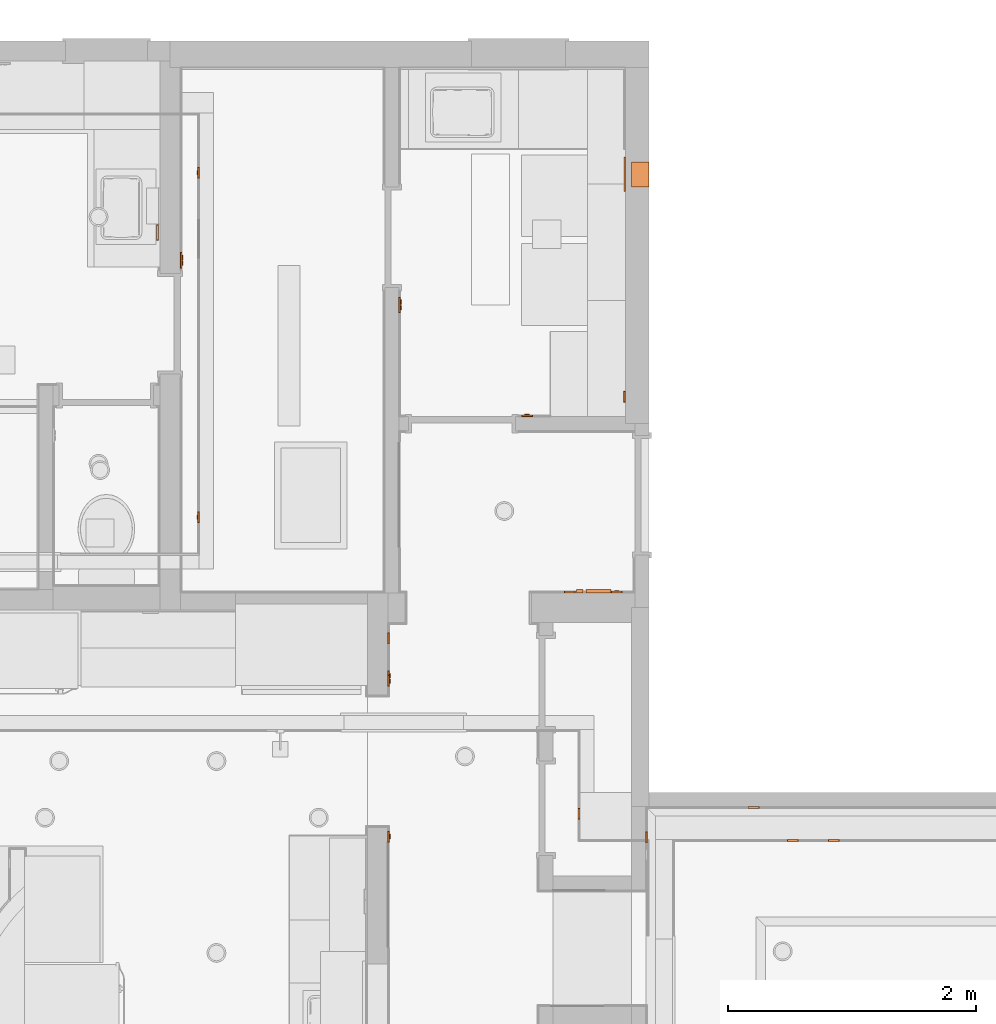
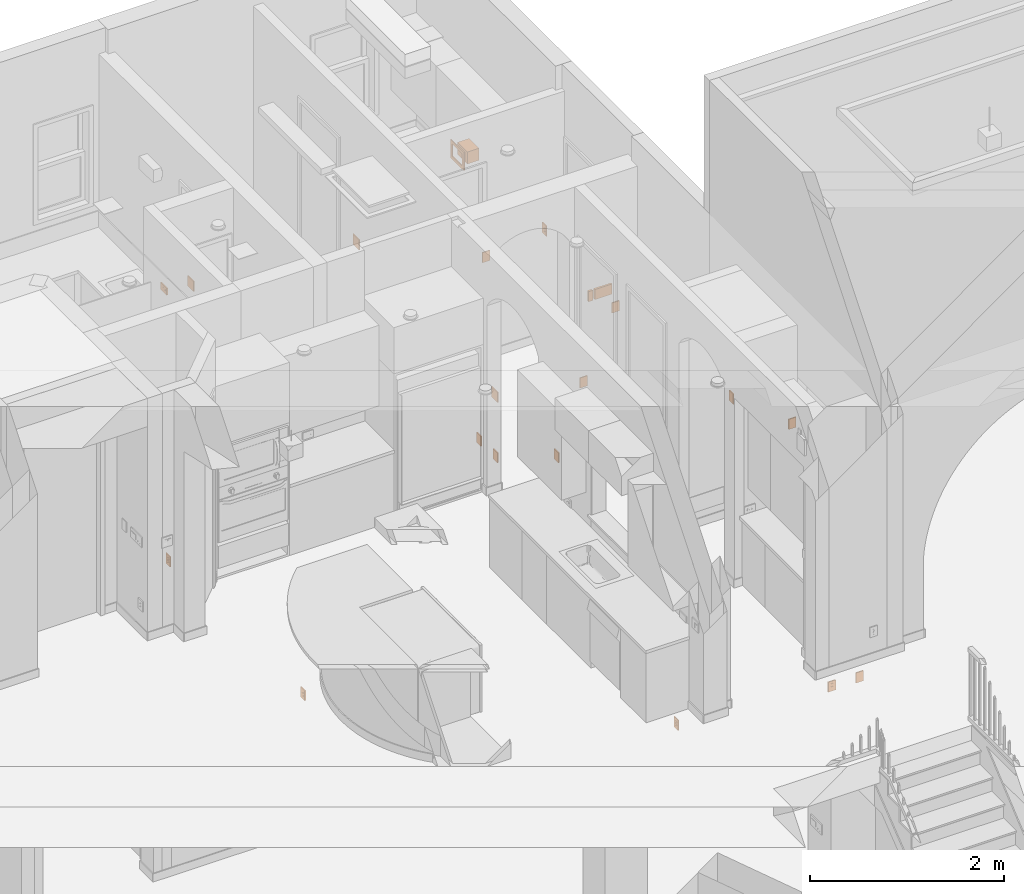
# One storey, part 55 of 60: 21 proxies.
"""IFC2X3 building model written with IfcOpenShell, lengths in feet."""

from ifc_helpers import new_model, entity, si_unit, converted_unit, direction, frame, frame_2d, origin, origin_2d_with_axis, place, context, subcontext, project, spatial, polyline, circle_curve, parameter, trimmed, segment, composite_curve, rectangle, outline, extrude, source, transform, mapped, material, type_object, type_shapes, element, save


model = new_model("IFC2X3")

# Units and contexts
model_context = context("Model", 3, precision=0.0001, world=origin(), true_north=direction((6.123031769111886e-17, 1.0)))
plan_context = context("Plan", 3, precision=0.0001, world=origin(), true_north=direction((6.123031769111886e-17, 1.0)))
body_context = subcontext(model_context, "Body", "Model", "MODEL_VIEW")
ifc_project = project(units=[converted_unit("LENGTHUNIT", "FOOT", entity("IfcLengthMeasure", 0.3048), si_unit("LENGTHUNIT", "METRE"), dimensions=[1, 0, 0, 0, 0, 0, 0]), converted_unit("AREAUNIT", "SQUARE FOOT", entity("IfcAreaMeasure", 0.09290304), si_unit("AREAUNIT", "SQUARE_METRE"), dimensions=[2, 0, 0, 0, 0, 0, 0]), converted_unit("PLANEANGLEUNIT", "DEGREE", entity("IfcPlaneAngleMeasure", 0.017453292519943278), si_unit("PLANEANGLEUNIT", "RADIAN"), dimensions=[0, 0, 0, 0, 0, 0, 0])], contexts=[model_context, plan_context])

# Site, building, storey
site_placement = place(None, origin())
site = spatial("IfcSite", under=ifc_project, at=site_placement, Name="Default", CompositionType="ELEMENT")
building_placement = place(site_placement, origin())
building = spatial("IfcBuilding", under=site, at=building_placement, CompositionType="ELEMENT")
storey_placement = place(building_placement, origin())
storey = spatial("IfcBuildingStorey", under=building, at=storey_placement, Name="First floor", CompositionType="ELEMENT", Elevation=0.0)

# Proxies
ifc_material = material(Name="Default New Material")
building_element_proxy_type_1 = type_object("IfcBuildingElementProxyType", Name="Wall void 1 :Wall void 1", PredefinedType="NOTDEFINED", material=ifc_material)
shared_shape_1 = source(origin(), body_context, "Body", "SweptSolid", [
    extrude(outline(polyline([(-0.4583333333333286, -0.375), (0.4583333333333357, -0.375), (0.4583333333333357, 0.375), (-0.4583333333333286, 0.375), (-0.4583333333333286, -0.375)]), holes=[polyline([(-0.3333333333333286, 0.25), (0.3333333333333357, 0.25), (0.3333333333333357, -0.25), (-0.3333333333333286, -0.25), (-0.3333333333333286, 0.25)])]), frame((19.708333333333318, 44.49965483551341, 0.25), z_axis=(1.0, 0.0, 0.0), x_axis=(0.0, -1.0, 0.0)), (0.0, 0.0, 1.0), 0.04166666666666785),
    extrude(rectangle(XDim=0.45833333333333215, YDim=0.6666666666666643, at=frame_2d((-1.7763568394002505e-15, -3.552713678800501e-15), x_axis=(1.0, 0.0))), frame((20.14583333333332, 44.49965483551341, 0.0)), (0.0, 0.0, 1.0), 0.5),
])
type_shapes(building_element_proxy_type_1, [shared_shape_1])
proxy_1_placement = place(storey_placement, frame((0.0, 0.0, 13.750000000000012)))
element("IfcBuildingElementProxy", 1, at=proxy_1_placement, inside=storey, type_object=building_element_proxy_type_1, material=ifc_material, Name="Wall void 1 :Wall void 1", ObjectType="Wall void 1 :Wall void 1", context=body_context, shape_type="MappedRepresentation", body=[
    mapped(shared_shape_1, transform((0.0, 0.0, 0.0), scale=1.0)),
])
building_element_proxy_type_2 = type_object("IfcBuildingElementProxyType", Name="switch 4:switch 4", PredefinedType="NOTDEFINED", material=ifc_material)
shared_shape_2 = source(origin(), body_context, "Body", "SweptSolid", [
    extrude(outline(composite_curve([segment(polyline([(-0.030916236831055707, -0.046587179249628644), (0.030916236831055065, -0.046587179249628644)]), True, "CONTINUOUS"), segment(trimmed(circle_curve(frame_2d((-0.00026496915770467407, 0.0), x_axis=(-1.0, 0.0)), 0.056059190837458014), [parameter(123.79474084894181)], [parameter(236.20525915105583)], True, "PARAMETER"), True, "CONTINUOUS"), segment(polyline([(0.030916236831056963, 0.04658717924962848), (-0.030916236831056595, 0.04658717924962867)]), True, "CONTINUOUS"), segment(trimmed(circle_curve(frame_2d((0.00026496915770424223, 0.0), x_axis=(-1.0, 0.0)), 0.056059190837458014), [parameter(303.79474084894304)], [parameter(56.2052591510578)], True, "PARAMETER"), True, "CONTINUOUS")], self_intersect=False), holes=[polyline([(0.01416238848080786, 0.027928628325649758), (0.026173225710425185, 0.02792862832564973), (0.026173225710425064, -0.006935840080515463), (0.01416238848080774, -0.006935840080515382), (0.01416238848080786, 0.027928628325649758)]), polyline([(-0.015270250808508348, 0.025046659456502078), (-0.015270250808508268, -0.004483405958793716), (-0.0278178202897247, -0.0044834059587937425), (-0.027817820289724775, 0.025046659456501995), (-0.015270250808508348, 0.025046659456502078)]), composite_curve([segment(polyline([(-0.01203154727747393, -0.041319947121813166), (-0.01203154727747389, -0.030018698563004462)]), True, "CONTINUOUS"), segment(trimmed(circle_curve(frame_2d((-0.00028489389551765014, -0.03001869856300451), x_axis=(-1.0, 0.0)), 0.011746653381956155), [parameter(180.00000000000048)], [parameter(3.5622212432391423e-13)], True, "PARAMETER"), False, "CONTINUOUS"), segment(polyline([(0.011461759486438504, -0.030018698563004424), (0.01146175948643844, -0.04131994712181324)]), True, "CONTINUOUS"), segment(polyline([(0.01146175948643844, -0.04131994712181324), (-0.01203154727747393, -0.041319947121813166)]), True, "CONTINUOUS")], self_intersect=False)]), frame((-0.0011190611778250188, 0.2703726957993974, 0.041666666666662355)), (0.0, 0.0, 1.0), 0.004209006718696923),
    extrude(outline(composite_curve([segment(polyline([(-0.030763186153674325, -0.04635654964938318), (0.030763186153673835, -0.04635654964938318)]), True, "CONTINUOUS"), segment(trimmed(circle_curve(frame_2d((-0.00026365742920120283, 0.0), x_axis=(-1.0, 0.0)), 0.05578167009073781), [parameter(123.79474084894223)], [parameter(236.20525915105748)], True, "PARAMETER"), True, "CONTINUOUS"), segment(polyline([(0.030763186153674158, 0.04635654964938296), (-0.030763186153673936, 0.04635654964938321)]), True, "CONTINUOUS"), segment(trimmed(circle_curve(frame_2d((0.0002636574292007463, 0.0), x_axis=(-1.0, 0.0)), 0.05578167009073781), [parameter(303.7947408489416)], [parameter(56.205259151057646)], True, "PARAMETER"), True, "CONTINUOUS")], self_intersect=False), holes=[polyline([(0.014092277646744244, 0.024722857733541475), (0.02604365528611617, 0.024722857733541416), (0.026043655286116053, -0.004727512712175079), (0.014092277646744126, -0.004727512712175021), (0.014092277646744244, 0.024722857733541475)]), polyline([(-0.01519465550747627, 0.024922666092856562), (-0.015194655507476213, -0.004461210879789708), (-0.027680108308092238, -0.00446121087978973), (-0.027680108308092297, 0.02492266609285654), (-0.01519465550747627, 0.024922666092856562)]), composite_curve([segment(polyline([(-0.011971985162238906, -0.04111539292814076), (-0.011971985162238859, -0.029870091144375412)]), True, "CONTINUOUS"), segment(trimmed(circle_curve(frame_2d((-0.00028348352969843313, -0.029870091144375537), x_axis=(-1.0, 0.0)), 0.011688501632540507), [parameter(179.9999999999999)], [parameter(0.0)], True, "PARAMETER"), False, "CONTINUOUS"), segment(polyline([(0.011405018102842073, -0.029870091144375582), (0.011405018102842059, -0.04111539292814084)]), True, "CONTINUOUS"), segment(polyline([(0.011405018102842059, -0.04111539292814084), (-0.011971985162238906, -0.04111539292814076)]), True, "CONTINUOUS")], self_intersect=False)]), frame((-0.0011190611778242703, 0.14560208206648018, 0.041666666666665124)), (0.0, 0.0, 1.0), 0.004209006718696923),
    extrude(rectangle(XDim=0.41666666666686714, YDim=0.2916666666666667, at=origin_2d_with_axis()), frame((0.0, 0.2083333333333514, 0.0), z_axis=(0.0, 0.0, 1.0), x_axis=(0.0, -1.0, 0.0)), (0.0, 0.0, 1.0), 0.041666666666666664),
])
type_shapes(building_element_proxy_type_2, [shared_shape_2])
for number, where, z_axis, x_axis, name in (
    (2, (13.458333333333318, 31.082988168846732, 11.66666666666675), (1.0, 0.0, 0.0), (0.0, 1.0, 0.0), "switch 4:switch 4"),
    (3, (18.270833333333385, 33.41632150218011, 11.625002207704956), (0.0, 1.0, 0.0), (-1.0, 0.0, 0.0), "switch 4:switch 4"),
    (4, (19.749999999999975, 38.60382150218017, 14.291668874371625), (-1.0, 0.0, 0.0), (0.0, -1.0, 0.0), "switch 4:switch 4"),
    (5, (24.18749999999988, 26.875, 0.9583355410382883), (0.0, -1.0, 0.0), (1.0, 0.0, 0.0), "switch 4:switch 4"),
    (6, (18.54166666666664, 27.56250000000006, 0.9583355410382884), (-1.0, 0.0, 0.0), (0.0, -1.0, 0.0), "switch 4:switch 4"),
    (7, (8.458333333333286, 35.41666666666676, 0.9583333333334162), (-1.0, 0.0, 0.0), (0.0, -1.0, 0.0), "switch 4:switch 4"),
    (8, (8.458333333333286, 44.54166666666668, 0.9583333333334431), (-1.0, 0.0, 0.0), (0.0, -1.0, 0.0), "switch 4:switch 4"),
):
    element("IfcBuildingElementProxy", number, at=place(storey_placement, frame(where, z_axis=z_axis, x_axis=x_axis)), inside=storey, type_object=building_element_proxy_type_2, material=ifc_material, Name=name, ObjectType="switch 4:switch 4", context=body_context, shape_type="MappedRepresentation", body=[
        mapped(shared_shape_2, transform((0.0, 0.0, 0.0), scale=1.0)),
    ])
building_element_proxy_type_3 = type_object("IfcBuildingElementProxyType", Name="switch 1:switch 1", PredefinedType="NOTDEFINED", material=ifc_material)
shared_shape_3 = source(origin(), body_context, "Body", "SweptSolid", [
    extrude(rectangle(XDim=0.29166666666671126, YDim=0.41666666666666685, at=frame_2d((0.0, 2.7755575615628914e-17), x_axis=(1.0, 0.0))), frame((0.0, 0.20833333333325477, 0.0)), (0.0, 0.0, 1.0), 0.041666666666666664),
])
type_shapes(building_element_proxy_type_3, [shared_shape_3])
for number, where, z_axis, x_axis, name in (
    (9, (23.145833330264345, 27.75000000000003, 11.666666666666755), (0.0, -1.0, 0.0), (1.0, 0.0, 0.0), "switch 1:switch 1"),
    (10, (20.29166666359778, 26.937500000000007, 14.208333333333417), (1.0, 0.0, 0.0), (0.0, 1.0, 0.0), "switch 1:switch 1"),
    (11, (13.45833333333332, 32.207988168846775, 11.66666666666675), (1.0, 0.0, 0.0), (0.0, 1.0, 0.0), "switch 1:switch 1"),
    (12, (25.270833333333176, 26.875, 0.9583333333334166), (0.0, -1.0, 0.0), (1.0, 0.0, 0.0), "switch 1:switch 1"),
):
    element("IfcBuildingElementProxy", number, at=place(storey_placement, frame(where, z_axis=z_axis, x_axis=x_axis)), inside=storey, type_object=building_element_proxy_type_3, material=ifc_material, Name=name, ObjectType="switch 1:switch 1", context=body_context, shape_type="MappedRepresentation", body=[
        mapped(shared_shape_3, transform((0.0, 0.0, 0.0), scale=1.0)),
    ])
building_element_proxy_type_4 = type_object("IfcBuildingElementProxyType", Name="switch 6:switch 6", PredefinedType="NOTDEFINED", material=ifc_material)
shared_shape_4 = source(origin(), body_context, "Body", "SweptSolid", [
    extrude(outline(polyline([(-0.025444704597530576, -0.10104762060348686), (-0.007049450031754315, -0.10104762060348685), (-0.005760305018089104, -0.027097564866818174), (0.02168554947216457, 0.1140991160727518), (0.0165689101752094, 0.11509369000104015), (-0.025444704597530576, -0.10104762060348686)])), frame((0.015553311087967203, 0.21435624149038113, 0.047363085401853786), z_axis=(1.0, 0.0, 0.0), x_axis=(0.0, -0.19080899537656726, 0.9816271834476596)), (0.0, 0.0, 1.0), 0.11722231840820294),
    extrude(outline(polyline([(-0.10560931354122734, -0.005954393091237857), (0.11457744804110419, -0.005954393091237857), (0.11457744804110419, -0.0007419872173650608), (-0.02169697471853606, -0.0007419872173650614), (-0.10184860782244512, 0.013392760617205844), (-0.10560931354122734, -0.005954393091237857)])), frame((-0.1301384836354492, 0.20531775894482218, 0.047621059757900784), z_axis=(1.0, 0.0, 0.0), x_axis=(0.0, 1.0, 0.0)), (0.0, 0.0, 1.0), 0.11504888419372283),
    extrude(rectangle(XDim=0.41666666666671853, YDim=0.41666666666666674, at=origin_2d_with_axis()), frame((0.0, 0.20833333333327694, 0.0), z_axis=(0.0, 0.0, 1.0), x_axis=(0.0, -1.0, 0.0)), (0.0, 0.0, 1.0), 0.041666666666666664),
])
type_shapes(building_element_proxy_type_4, [shared_shape_4])
for number, where, z_axis, x_axis, name in (
    (13, (13.458333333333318, 31.14548816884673, 14.16666666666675), (1.0, 0.0, 0.0), (0.0, 1.0, 0.0), "switch 6:switch 6"),
    (14, (13.749999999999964, 41.04132150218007, 14.375000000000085), (1.0, 0.0, 0.0), (0.0, 1.0, 0.0), "switch 6:switch 6"),
    (15, (7.958333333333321, 42.22882150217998, 13.958333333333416), (1.0, 0.0, 0.0), (0.0, 1.0, 0.0), "switch 6:switch 6"),
):
    element("IfcBuildingElementProxy", number, at=place(storey_placement, frame(where, z_axis=z_axis, x_axis=x_axis)), inside=storey, type_object=building_element_proxy_type_4, material=ifc_material, Name=name, ObjectType="switch 6:switch 6", context=body_context, shape_type="MappedRepresentation", body=[
        mapped(shared_shape_4, transform((0.0, 0.0, 0.0), scale=1.0)),
    ])
building_element_proxy_type_5 = type_object("IfcBuildingElementProxyType", Name="switch 3:switch 3", PredefinedType="NOTDEFINED", material=ifc_material)
shared_shape_5 = source(origin(), body_context, "Body", "SweptSolid", [
    extrude(outline(polyline([(-0.10405409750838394, -0.0058649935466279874), (0.11210607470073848, -0.0058649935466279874), (0.11210607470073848, -0.0006525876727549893), (-0.02127056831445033, -0.0006525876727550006), (-0.09888748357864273, 0.013035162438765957), (-0.10405409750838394, -0.0058649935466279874)])), frame((-0.058349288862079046, 0.2099944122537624, 0.047531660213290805), z_axis=(1.0, 0.0, 0.0), x_axis=(0.0, 1.0, 0.0)), (0.0, 0.0, 1.0), 0.11669857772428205),
    extrude(rectangle(XDim=0.41666666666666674, YDim=0.2916666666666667, at=origin_2d_with_axis()), frame((0.0, 0.20833333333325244, 0.0), z_axis=(0.0, 0.0, 1.0), x_axis=(0.0, -1.0, 0.0)), (0.0, 0.0, 1.0), 0.041666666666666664),
])
type_shapes(building_element_proxy_type_5, [shared_shape_5])
for number, where, z_axis, x_axis, name in (
    (16, (13.45833333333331, 26.957988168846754, 14.166666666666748), (1.0, 0.0, 0.0), (0.0, 1.0, 0.0), "switch 3:switch 3"),
    (17, (19.5208333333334, 33.416321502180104, 14.29166666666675), (0.0, 1.0, 0.0), (-1.0, 0.0, 0.0), "switch 3:switch 3"),
    (18, (17.145833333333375, 38.08298816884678, 14.375000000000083), (0.0, 1.0, 0.0), (-1.0, 0.0, 0.0), "switch 3:switch 3"),
):
    element("IfcBuildingElementProxy", number, at=place(storey_placement, frame(where, z_axis=z_axis, x_axis=x_axis)), inside=storey, type_object=building_element_proxy_type_5, material=ifc_material, Name=name, ObjectType="switch 3:switch 3", context=body_context, shape_type="MappedRepresentation", body=[
        mapped(shared_shape_5, transform((0.0, 0.0, 0.0), scale=1.0)),
    ])
building_element_proxy_type_6 = type_object("IfcBuildingElementProxyType", Name="Specialty Equipment_1:Specialty Equipment_1", PredefinedType="NOTDEFINED", material=ifc_material)
shared_shape_6 = source(origin(), body_context, "Body", "SweptSolid", [
    extrude(rectangle(XDim=0.16666666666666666, YDim=0.08333333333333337, at=origin_2d_with_axis()), frame((0.0, -0.041666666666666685, 0.0), z_axis=(0.0, 0.0, 1.0), x_axis=(-1.0, 0.0, 0.0)), (0.0, 0.0, 1.0), 0.4166666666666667),
])
type_shapes(building_element_proxy_type_6, [shared_shape_6])
proxy_2_placement = place(storey_placement, frame((18.54166666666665, 33.49965483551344, 15.083333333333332)))
element("IfcBuildingElementProxy", 19, at=proxy_2_placement, inside=storey, type_object=building_element_proxy_type_6, material=ifc_material, Name="Specialty Equipment_1:Specialty Equipment_1", ObjectType="Specialty Equipment_1:Specialty Equipment_1", context=body_context, shape_type="MappedRepresentation", body=[
    mapped(shared_shape_6, transform((0.0, 0.0, 0.0), scale=1.0)),
])
building_element_proxy_type_7 = type_object("IfcBuildingElementProxyType", Name="Specialty Equipment_1:Specialty Equipment_1", PredefinedType="NOTDEFINED", material=ifc_material)
shared_shape_7 = source(origin(), body_context, "Body", "SweptSolid", [
    extrude(rectangle(XDim=0.6666666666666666, YDim=0.08333333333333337, at=origin_2d_with_axis()), frame((0.0, -0.041666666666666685, 0.0), z_axis=(0.0, 0.0, 1.0), x_axis=(-1.0, 0.0, 0.0)), (0.0, 0.0, 1.0), 0.4166666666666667),
])
type_shapes(building_element_proxy_type_7, [shared_shape_7])
proxy_3_placement = place(storey_placement, frame((19.041666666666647, 33.49965483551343, 15.083333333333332)))
element("IfcBuildingElementProxy", 20, at=proxy_3_placement, inside=storey, type_object=building_element_proxy_type_7, material=ifc_material, Name="Specialty Equipment_1:Specialty Equipment_1", ObjectType="Specialty Equipment_1:Specialty Equipment_1", context=body_context, shape_type="MappedRepresentation", body=[
    mapped(shared_shape_7, transform((0.0, 0.0, 0.0), scale=1.0)),
])
building_element_proxy_type_8 = type_object("IfcBuildingElementProxyType", Name="switch 15:switch 15", PredefinedType="NOTDEFINED", material=ifc_material)
shared_shape_8 = source(origin(), body_context, "Body", "SweptSolid", [
    extrude(outline(composite_curve([segment(polyline([(-0.030916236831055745, -0.04658717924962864), (0.030916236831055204, -0.04658717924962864)]), True, "CONTINUOUS"), segment(trimmed(circle_curve(frame_2d((-0.0002649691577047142, 0.0), x_axis=(-1.0, 0.0)), 0.056059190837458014), [parameter(123.79474084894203)], [parameter(236.20525915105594)], True, "PARAMETER"), True, "CONTINUOUS"), segment(polyline([(0.030916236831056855, 0.046587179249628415), (-0.030916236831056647, 0.04658717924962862)]), True, "CONTINUOUS"), segment(trimmed(circle_curve(frame_2d((0.0002649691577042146, 0.0), x_axis=(-1.0, 0.0)), 0.056059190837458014), [parameter(303.79474084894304)], [parameter(56.205259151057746)], True, "PARAMETER"), True, "CONTINUOUS")], self_intersect=False), holes=[polyline([(0.014162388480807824, 0.02792862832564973), (0.02617322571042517, 0.02792862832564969), (0.026173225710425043, -0.00693584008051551), (0.014162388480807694, -0.006935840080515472), (0.014162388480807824, 0.02792862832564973)]), polyline([(-0.015270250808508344, 0.025046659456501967), (-0.015270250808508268, -0.0044834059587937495), (-0.0278178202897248, -0.004483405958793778), (-0.02781782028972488, 0.025046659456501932), (-0.015270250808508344, 0.025046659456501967)]), composite_curve([segment(polyline([(-0.01203154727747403, -0.041319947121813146), (-0.012031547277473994, -0.03001869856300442)]), True, "CONTINUOUS"), segment(trimmed(circle_curve(frame_2d((-0.00028489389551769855, -0.030018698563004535), x_axis=(-1.0, 0.0)), 0.011746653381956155), [parameter(179.9999999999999)], [parameter(0.0)], True, "PARAMETER"), False, "CONTINUOUS"), segment(polyline([(0.01146175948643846, -0.030018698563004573), (0.011461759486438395, -0.041319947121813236)]), True, "CONTINUOUS"), segment(polyline([(0.011461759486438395, -0.041319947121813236), (-0.01203154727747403, -0.041319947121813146)]), True, "CONTINUOUS")], self_intersect=False)]), frame((-0.06250062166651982, 0.1354596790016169, 0.041666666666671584), z_axis=(0.0, 0.0, 1.0), x_axis=(0.0, 1.0, 0.0)), (0.0, 0.0, 1.0), 0.004209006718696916),
    extrude(outline(composite_curve([segment(polyline([(-0.030763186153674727, -0.04635654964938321), (0.030763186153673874, -0.04635654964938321)]), True, "CONTINUOUS"), segment(trimmed(circle_curve(frame_2d((-0.0002636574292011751, 0.0), x_axis=(-1.0, 0.0)), 0.05578167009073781), [parameter(123.79474084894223)], [parameter(236.20525915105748)], True, "PARAMETER"), True, "CONTINUOUS"), segment(polyline([(0.030763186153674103, 0.046356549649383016), (-0.03076318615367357, 0.04635654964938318)]), True, "CONTINUOUS"), segment(trimmed(circle_curve(frame_2d((0.000263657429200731, 0.0), x_axis=(-1.0, 0.0)), 0.05578167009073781), [parameter(303.7947408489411)], [parameter(56.205259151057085)], True, "PARAMETER"), True, "CONTINUOUS")], self_intersect=False), holes=[polyline([(0.014092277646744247, 0.024722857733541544), (0.026043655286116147, 0.024722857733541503), (0.026043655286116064, -0.00472751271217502), (0.014092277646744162, -0.004727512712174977), (0.014092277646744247, 0.024722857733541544)]), polyline([(-0.01519465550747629, 0.024922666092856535), (-0.015194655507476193, -0.004461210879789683), (-0.027680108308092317, -0.00446121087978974), (-0.027680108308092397, 0.024922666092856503), (-0.01519465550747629, 0.024922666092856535)]), composite_curve([segment(polyline([(-0.011971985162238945, -0.04111539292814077), (-0.011971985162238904, -0.029870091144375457)]), True, "CONTINUOUS"), segment(trimmed(circle_curve(frame_2d((-0.00028348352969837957, -0.029870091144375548), x_axis=(-1.0, 0.0)), 0.011688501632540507), [parameter(180.00000000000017)], [parameter(0.0)], True, "PARAMETER"), False, "CONTINUOUS"), segment(polyline([(0.01140501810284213, -0.029870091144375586), (0.011405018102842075, -0.04111539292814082)]), True, "CONTINUOUS"), segment(polyline([(0.011405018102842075, -0.04111539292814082), (-0.011971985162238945, -0.04111539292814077)]), True, "CONTINUOUS")], self_intersect=False)]), frame((0.06226999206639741, 0.13545967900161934, 0.041666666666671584), z_axis=(0.0, 0.0, 1.0), x_axis=(0.0, 1.0, 0.0)), (0.0, 0.0, 1.0), 0.004209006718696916),
    extrude(rectangle(XDim=0.41666666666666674, YDim=0.29166666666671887, at=origin_2d_with_axis()), frame((0.0, 0.14583333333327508, 0.0), z_axis=(0.0, 0.0, 1.0), x_axis=(-1.0, 0.0, 0.0)), (0.0, 0.0, 1.0), 0.04166666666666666),
])
type_shapes(building_element_proxy_type_8, [shared_shape_8])
proxy_4_placement = place(storey_placement, frame((7.374999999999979, 42.957988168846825, 13.874999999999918), z_axis=(-1.0, 0.0, 0.0), x_axis=(0.0, 1.0, 0.0)))
element("IfcBuildingElementProxy", 21, at=proxy_4_placement, inside=storey, type_object=building_element_proxy_type_8, material=ifc_material, Name="switch 15:switch 15", ObjectType="switch 15:switch 15", context=body_context, shape_type="MappedRepresentation", body=[
    mapped(shared_shape_8, transform((0.0, 0.0, 0.0), scale=1.0)),
])

save(model, "model.ifc")
